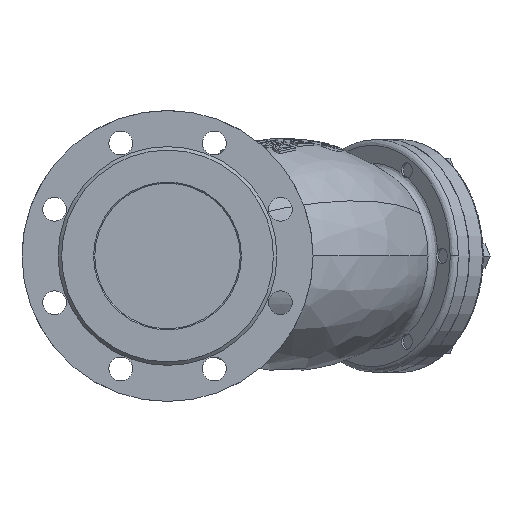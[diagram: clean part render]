
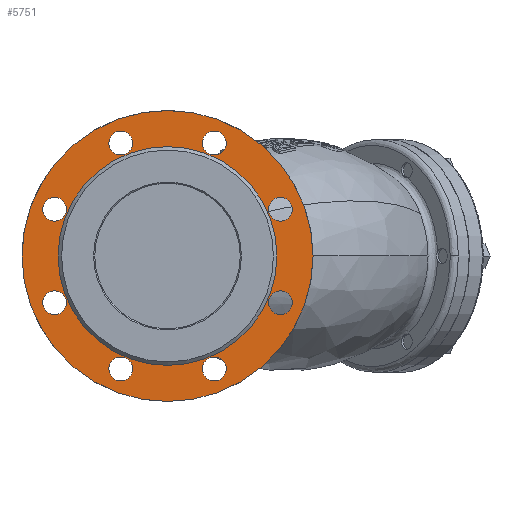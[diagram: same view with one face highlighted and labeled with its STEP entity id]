
A CAD part, left-side view. The second image highlights one B-rep face of the part: STEP entity #5751.
In plain terms, the highlighted planar face has unit normal (-1, 0, 0).
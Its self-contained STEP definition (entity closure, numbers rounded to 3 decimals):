
#2 = ORIENTED_EDGE ( 'NONE', *, *, #36528, .T. ) ;
#707 = FACE_BOUND ( 'NONE', #25523, .T. ) ;
#1803 = PLANE ( 'NONE',  #48803 ) ;
#3314 = CIRCLE ( 'NONE', #18583, 10.231 ) ;
#3593 = EDGE_CURVE ( 'NONE', #21930, #21930, #46065, .T. ) ;
#4112 = VERTEX_POINT ( 'NONE', #54575 ) ;
#4685 = ORIENTED_EDGE ( 'NONE', *, *, #28836, .T. ) ;
#5504 = AXIS2_PLACEMENT_3D ( 'NONE', #37850, #24564, #7923 ) ;
#5721 = ORIENTED_EDGE ( 'NONE', *, *, #12960, .T. ) ;
#5751 = ADVANCED_FACE ( 'NONE', ( #48600, #17867, #13369, #34800, #9946, #39909, #35077, #31651, #707, #52278 ), #1803, .T. ) ;
#6310 = EDGE_CURVE ( 'NONE', #13752, #13752, #50596, .T. ) ;
#6446 = EDGE_CURVE ( 'NONE', #9768, #9768, #9565, .T. ) ;
#6928 = CARTESIAN_POINT ( 'NONE',  ( 3., -97.007, -50.413 ) ) ;
#7501 = EDGE_LOOP ( 'NONE', ( #36452 ) ) ;
#7923 = DIRECTION ( 'NONE',  ( 0., 0., -1. ) ) ;
#8440 = ORIENTED_EDGE ( 'NONE', *, *, #16070, .T. ) ;
#8664 = ORIENTED_EDGE ( 'NONE', *, *, #40223, .T. ) ;
#9565 = CIRCLE ( 'NONE', #53720, 94. ) ;
#9768 = VERTEX_POINT ( 'NONE', #43936 ) ;
#9782 = DIRECTION ( 'NONE',  ( 0., 0., -1. ) ) ;
#9946 = FACE_BOUND ( 'NONE', #52049, .T. ) ;
#10688 = EDGE_LOOP ( 'NONE', ( #34362 ) ) ;
#10896 = CARTESIAN_POINT ( 'NONE',  ( 3., -40.182, -107.238 ) ) ;
#11444 = VERTEX_POINT ( 'NONE', #23308 ) ;
#12960 = EDGE_CURVE ( 'NONE', #37413, #37413, #3314, .T. ) ;
#13369 = FACE_BOUND ( 'NONE', #21875, .T. ) ;
#13686 = DIRECTION ( 'NONE',  ( 1., 0., 0. ) ) ;
#13752 = VERTEX_POINT ( 'NONE', #26690 ) ;
#14025 = CARTESIAN_POINT ( 'NONE',  ( 3., 40.182, -107.238 ) ) ;
#14040 = CARTESIAN_POINT ( 'NONE',  ( 3., -97.007, 40.182 ) ) ;
#14432 = EDGE_LOOP ( 'NONE', ( #4685 ) ) ;
#15039 = EDGE_CURVE ( 'NONE', #11444, #11444, #21023, .T. ) ;
#15411 = CARTESIAN_POINT ( 'NONE',  ( 3., -97.007, 29.951 ) ) ;
#15732 = DIRECTION ( 'NONE',  ( -1., 0., 0. ) ) ;
#15845 = CARTESIAN_POINT ( 'NONE',  ( 3., 0., 0. ) ) ;
#16070 = EDGE_CURVE ( 'NONE', #19615, #19615, #45126, .T. ) ;
#17496 = CARTESIAN_POINT ( 'NONE',  ( 3., 40.182, -97.007 ) ) ;
#17867 = FACE_OUTER_BOUND ( 'NONE', #7501, .T. ) ;
#18427 = AXIS2_PLACEMENT_3D ( 'NONE', #46599, #23261, #36241 ) ;
#18583 = AXIS2_PLACEMENT_3D ( 'NONE', #14040, #31225, #9782 ) ;
#18596 = CIRCLE ( 'NONE', #22193, 10.231 ) ;
#19615 = VERTEX_POINT ( 'NONE', #6928 ) ;
#19657 = DIRECTION ( 'NONE',  ( 1., 0., 0. ) ) ;
#20644 = AXIS2_PLACEMENT_3D ( 'NONE', #27175, #13686, #34841 ) ;
#21023 = CIRCLE ( 'NONE', #55231, 10.231 ) ;
#21709 = DIRECTION ( 'NONE',  ( 1., 0., 0. ) ) ;
#21733 = AXIS2_PLACEMENT_3D ( 'NONE', #17496, #21709, #38954 ) ;
#21875 = EDGE_LOOP ( 'NONE', ( #8440 ) ) ;
#21930 = VERTEX_POINT ( 'NONE', #14025 ) ;
#22017 = CARTESIAN_POINT ( 'NONE',  ( 3., 40.182, 97.007 ) ) ;
#22193 = AXIS2_PLACEMENT_3D ( 'NONE', #35166, #48962, #52358 ) ;
#23261 = DIRECTION ( 'NONE',  ( 1., 0., 0. ) ) ;
#23308 = CARTESIAN_POINT ( 'NONE',  ( 3., 40.182, 86.776 ) ) ;
#24564 = DIRECTION ( 'NONE',  ( 1., 0., 0. ) ) ;
#25523 = EDGE_LOOP ( 'NONE', ( #40634 ) ) ;
#26244 = AXIS2_PLACEMENT_3D ( 'NONE', #36047, #19657, #45082 ) ;
#26690 = CARTESIAN_POINT ( 'NONE',  ( 3., 97.007, 29.951 ) ) ;
#27175 = CARTESIAN_POINT ( 'NONE',  ( 3., 97.007, -40.182 ) ) ;
#27407 = DIRECTION ( 'NONE',  ( 0., 0., 1. ) ) ;
#28480 = EDGE_LOOP ( 'NONE', ( #8664 ) ) ;
#28595 = CIRCLE ( 'NONE', #40382, 125. ) ;
#28836 = EDGE_CURVE ( 'NONE', #50085, #50085, #47296, .T. ) ;
#29186 = VERTEX_POINT ( 'NONE', #50363 ) ;
#29616 = DIRECTION ( 'NONE',  ( 0., 0., -1. ) ) ;
#30835 = EDGE_LOOP ( 'NONE', ( #38390 ) ) ;
#31225 = DIRECTION ( 'NONE',  ( 1., 0., 0. ) ) ;
#31651 = FACE_BOUND ( 'NONE', #28480, .T. ) ;
#33003 = DIRECTION ( 'NONE',  ( -1., 0., 0. ) ) ;
#33262 = EDGE_CURVE ( 'NONE', #29186, #29186, #28595, .T. ) ;
#34362 = ORIENTED_EDGE ( 'NONE', *, *, #6446, .F. ) ;
#34800 = FACE_BOUND ( 'NONE', #51780, .T. ) ;
#34841 = DIRECTION ( 'NONE',  ( 0., 0., -1. ) ) ;
#35077 = FACE_BOUND ( 'NONE', #54811, .T. ) ;
#35166 = CARTESIAN_POINT ( 'NONE',  ( 3., -40.182, 97.007 ) ) ;
#36047 = CARTESIAN_POINT ( 'NONE',  ( 3., 97.007, 40.182 ) ) ;
#36241 = DIRECTION ( 'NONE',  ( 0., 0., -1. ) ) ;
#36452 = ORIENTED_EDGE ( 'NONE', *, *, #33262, .T. ) ;
#36528 = EDGE_CURVE ( 'NONE', #4112, #4112, #18596, .T. ) ;
#37413 = VERTEX_POINT ( 'NONE', #15411 ) ;
#37850 = CARTESIAN_POINT ( 'NONE',  ( 3., -97.007, -40.182 ) ) ;
#38390 = ORIENTED_EDGE ( 'NONE', *, *, #15039, .T. ) ;
#38532 = VERTEX_POINT ( 'NONE', #50925 ) ;
#38687 = DIRECTION ( 'NONE',  ( 1., 0., 0. ) ) ;
#38954 = DIRECTION ( 'NONE',  ( 0., 0., -1. ) ) ;
#39909 = FACE_BOUND ( 'NONE', #30835, .T. ) ;
#40223 = EDGE_CURVE ( 'NONE', #38532, #38532, #41369, .T. ) ;
#40382 = AXIS2_PLACEMENT_3D ( 'NONE', #15845, #33003, #51072 ) ;
#40634 = ORIENTED_EDGE ( 'NONE', *, *, #3593, .T. ) ;
#41369 = CIRCLE ( 'NONE', #20644, 10.231 ) ;
#43936 = CARTESIAN_POINT ( 'NONE',  ( 3., 94., 0. ) ) ;
#44393 = DIRECTION ( 'NONE',  ( -1., 0., 0. ) ) ;
#45082 = DIRECTION ( 'NONE',  ( 0., 0., -1. ) ) ;
#45126 = CIRCLE ( 'NONE', #5504, 10.231 ) ;
#46065 = CIRCLE ( 'NONE', #21733, 10.231 ) ;
#46599 = CARTESIAN_POINT ( 'NONE',  ( 3., -40.182, -97.007 ) ) ;
#47045 = CARTESIAN_POINT ( 'NONE',  ( 3., 0., 0. ) ) ;
#47296 = CIRCLE ( 'NONE', #18427, 10.231 ) ;
#47483 = ORIENTED_EDGE ( 'NONE', *, *, #6310, .T. ) ;
#48600 = FACE_BOUND ( 'NONE', #10688, .T. ) ;
#48803 = AXIS2_PLACEMENT_3D ( 'NONE', #52546, #44393, #27407 ) ;
#48962 = DIRECTION ( 'NONE',  ( 1., 0., 0. ) ) ;
#50085 = VERTEX_POINT ( 'NONE', #10896 ) ;
#50363 = CARTESIAN_POINT ( 'NONE',  ( 3., 0., -125. ) ) ;
#50596 = CIRCLE ( 'NONE', #26244, 10.231 ) ;
#50925 = CARTESIAN_POINT ( 'NONE',  ( 3., 97.007, -50.413 ) ) ;
#50967 = DIRECTION ( 'NONE',  ( 0., 1., 0. ) ) ;
#51072 = DIRECTION ( 'NONE',  ( 0., 0., -1. ) ) ;
#51780 = EDGE_LOOP ( 'NONE', ( #5721 ) ) ;
#52049 = EDGE_LOOP ( 'NONE', ( #2 ) ) ;
#52278 = FACE_BOUND ( 'NONE', #14432, .T. ) ;
#52358 = DIRECTION ( 'NONE',  ( 0., 0., -1. ) ) ;
#52546 = CARTESIAN_POINT ( 'NONE',  ( 3., 0., 0. ) ) ;
#53720 = AXIS2_PLACEMENT_3D ( 'NONE', #47045, #15732, #50967 ) ;
#54575 = CARTESIAN_POINT ( 'NONE',  ( 3., -40.182, 86.776 ) ) ;
#54811 = EDGE_LOOP ( 'NONE', ( #47483 ) ) ;
#55231 = AXIS2_PLACEMENT_3D ( 'NONE', #22017, #38687, #29616 ) ;
